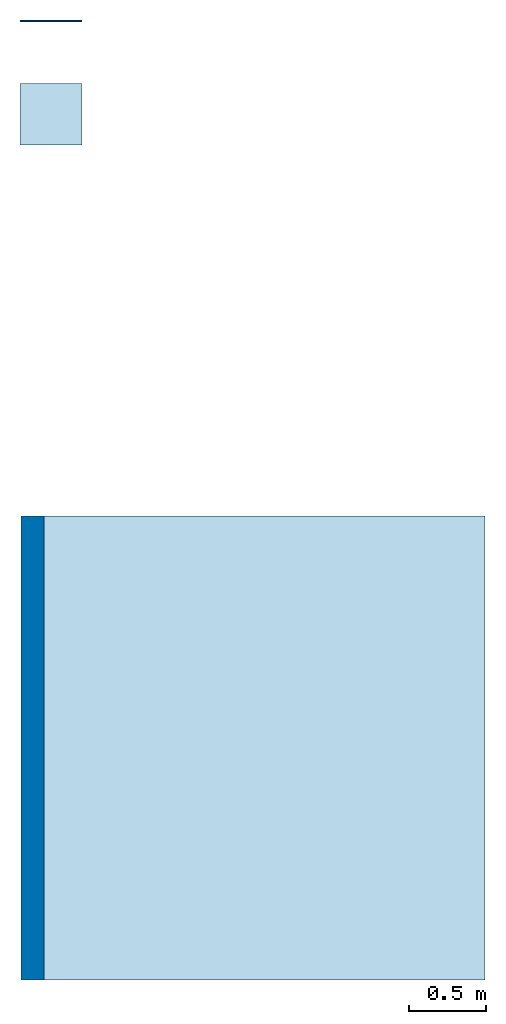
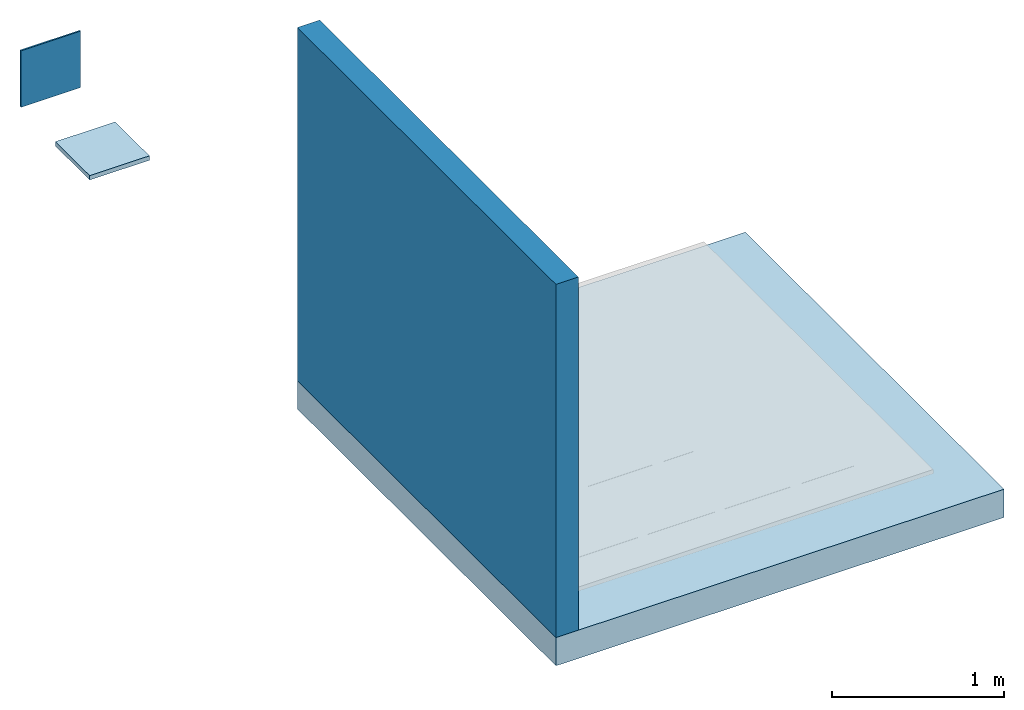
# One storey, part 1 of 2: 2 slabs, 2 walls.
"""IFC2X3 building model written with IfcOpenShell, lengths in metres."""

from ifc_helpers import new_model, entity, si_unit, converted_unit, derived_unit, direction, frame, frame_2d, origin, origin_2d_with_axis, place, context, subcontext, project, spatial, rectangle, extrude, material, layer, layer_set, layer_usage, type_object, element, save


model = new_model("IFC2X3")

# Units and contexts
model_context = context("Model", 3, precision=1e-05, world=origin(), true_north=direction((6.123031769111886e-17, 1.0)))
body_context = subcontext(model_context, "Body", "Model", "MODEL_VIEW")
ifc_project = project(units=[si_unit("LENGTHUNIT", "METRE"), si_unit("AREAUNIT", "SQUARE_METRE"), si_unit("VOLUMEUNIT", "CUBIC_METRE"), converted_unit("PLANEANGLEUNIT", "DEGREE", entity("IfcRatioMeasure", 0.017453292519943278), si_unit("PLANEANGLEUNIT", "RADIAN"), dimensions=[0, 0, 0, 0, 0, 0, 0]), si_unit("MASSUNIT", "GRAM", prefix="KILO"), derived_unit("MASSDENSITYUNIT", [(si_unit("MASSUNIT", "GRAM", prefix="KILO"), 1), (si_unit("LENGTHUNIT", "METRE"), -3)]), derived_unit("IONCONCENTRATIONUNIT", [(si_unit("MASSUNIT", "GRAM", prefix="KILO"), 1), (si_unit("LENGTHUNIT", "METRE"), -3)]), derived_unit("MOMENTOFINERTIAUNIT", [(si_unit("LENGTHUNIT", "METRE"), 4)]), si_unit("TIMEUNIT", "SECOND"), si_unit("FREQUENCYUNIT", "HERTZ"), si_unit("THERMODYNAMICTEMPERATUREUNIT", "DEGREE_CELSIUS"), derived_unit("THERMALTRANSMITTANCEUNIT", [(si_unit("MASSUNIT", "GRAM", prefix="KILO"), 1), (si_unit("THERMODYNAMICTEMPERATUREUNIT", "KELVIN"), -1), (si_unit("TIMEUNIT", "SECOND"), -3)]), derived_unit("THERMALCONDUCTANCEUNIT", [(si_unit("MASSUNIT", "GRAM", prefix="KILO"), 1), (si_unit("THERMODYNAMICTEMPERATUREUNIT", "KELVIN"), -1), (si_unit("TIMEUNIT", "SECOND"), -3), (si_unit("LENGTHUNIT", "METRE"), 1)]), derived_unit("VOLUMETRICFLOWRATEUNIT", [(si_unit("LENGTHUNIT", "METRE"), 3), (si_unit("TIMEUNIT", "SECOND"), -1)]), derived_unit("MASSFLOWRATEUNIT", [(si_unit("MASSUNIT", "GRAM", prefix="KILO"), 1), (si_unit("TIMEUNIT", "SECOND"), -1)]), derived_unit("ROTATIONALFREQUENCYUNIT", [(si_unit("TIMEUNIT", "SECOND"), -1)]), si_unit("ELECTRICCURRENTUNIT", "AMPERE"), si_unit("ELECTRICVOLTAGEUNIT", "VOLT"), si_unit("POWERUNIT", "WATT"), si_unit("FORCEUNIT", "NEWTON", prefix="KILO"), si_unit("ILLUMINANCEUNIT", "LUX"), si_unit("LUMINOUSFLUXUNIT", "LUMEN"), si_unit("LUMINOUSINTENSITYUNIT", "CANDELA"), derived_unit("USERDEFINED", [(si_unit("MASSUNIT", "GRAM", prefix="KILO"), -1), (si_unit("LENGTHUNIT", "METRE"), -2), (si_unit("TIMEUNIT", "SECOND"), 3), (si_unit("LUMINOUSFLUXUNIT", "LUMEN"), 1)]), derived_unit("USERDEFINED", [(si_unit("MASSUNIT", "GRAM", prefix="KILO"), 1), (si_unit("TIMEUNIT", "SECOND"), -3), (si_unit("LENGTHUNIT", "METRE"), 3), (si_unit("ELECTRICCURRENTUNIT", "AMPERE"), -2)]), derived_unit("SOUNDPOWERUNIT", [(si_unit("MASSUNIT", "GRAM", prefix="KILO"), 1), (si_unit("TIMEUNIT", "SECOND"), -3), (si_unit("LENGTHUNIT", "METRE"), 2)]), derived_unit("SOUNDPRESSUREUNIT", [(si_unit("MASSUNIT", "GRAM", prefix="KILO"), 1), (si_unit("LENGTHUNIT", "METRE"), -1), (si_unit("TIMEUNIT", "SECOND"), -2)]), derived_unit("LINEARVELOCITYUNIT", [(si_unit("LENGTHUNIT", "METRE"), 1), (si_unit("TIMEUNIT", "SECOND"), -1)]), si_unit("PRESSUREUNIT", "PASCAL"), derived_unit("USERDEFINED", [(si_unit("MASSUNIT", "GRAM", prefix="KILO"), 1), (si_unit("LENGTHUNIT", "METRE"), -2), (si_unit("TIMEUNIT", "SECOND"), -2)]), derived_unit("LINEARFORCEUNIT", [(si_unit("MASSUNIT", "GRAM", prefix="KILO"), 1), (si_unit("TIMEUNIT", "SECOND"), -2)]), derived_unit("PLANARFORCEUNIT", [(si_unit("MASSUNIT", "GRAM", prefix="KILO"), 1), (si_unit("LENGTHUNIT", "METRE"), -1), (si_unit("TIMEUNIT", "SECOND"), -2)]), derived_unit("SPECIFICHEATCAPACITYUNIT", [(si_unit("THERMODYNAMICTEMPERATUREUNIT", "KELVIN"), -1), (si_unit("LENGTHUNIT", "METRE"), 2), (si_unit("TIMEUNIT", "SECOND"), -2)]), derived_unit("HEATINGVALUEUNIT", [(si_unit("LENGTHUNIT", "METRE"), 2), (si_unit("TIMEUNIT", "SECOND"), -2)]), derived_unit("VAPORPERMEABILITYUNIT", [(si_unit("LENGTHUNIT", "METRE"), -1), (si_unit("TIMEUNIT", "SECOND"), 1)]), derived_unit("DYNAMICVISCOSITYUNIT", [(si_unit("MASSUNIT", "GRAM", prefix="KILO"), 1), (si_unit("TIMEUNIT", "SECOND"), -1), (si_unit("LENGTHUNIT", "METRE"), -1)]), derived_unit("THERMALEXPANSIONCOEFFICIENTUNIT", [(si_unit("THERMODYNAMICTEMPERATUREUNIT", "KELVIN"), -1)]), derived_unit("MODULUSOFELASTICITYUNIT", [(si_unit("MASSUNIT", "GRAM", prefix="KILO"), 1), (si_unit("LENGTHUNIT", "METRE"), -1), (si_unit("TIMEUNIT", "SECOND"), -2)]), derived_unit("ISOTHERMALMOISTURECAPACITYUNIT", [(si_unit("LENGTHUNIT", "METRE"), 3), (si_unit("MASSUNIT", "GRAM", prefix="KILO"), -1)]), derived_unit("MOISTUREDIFFUSIVITYUNIT", [(si_unit("TIMEUNIT", "SECOND"), -1), (si_unit("LENGTHUNIT", "METRE"), 2)])], contexts=[model_context])

# Site, building, storey
site_placement = place(None, origin())
site = spatial("IfcSite", under=ifc_project, at=site_placement, Name="Default", CompositionType="ELEMENT")
building_placement = place(site_placement, origin())
building = spatial("IfcBuilding", under=site, at=building_placement, CompositionType="ELEMENT")
storey_placement = place(building_placement, frame((0.0, 0.0, -0.0025237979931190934)))
storey = spatial("IfcBuildingStorey", under=building, at=storey_placement, Name="ARQ Térreo", CompositionType="ELEMENT", Elevation=-0.0025237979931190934)

# Slabs
ifc_material_1 = material(Name="#concreto")
ifc_layer_1 = layer(ifc_material_1, 0.2)
ifc_layer_set_1 = layer_set([ifc_layer_1], Name="Piso:Piso:LAJE CONCRETO")
ifc_layer_usage_1 = layer_usage(ifc_layer_set_1, "AXIS3", "POSITIVE", 0.0)
slab_type_1 = type_object("IfcSlabType", Name="Piso:Piso:LAJE CONCRETO", PredefinedType="FLOOR", material=ifc_layer_set_1)
slab_1_placement = place(storey_placement, origin())
element("IfcSlab", 1, at=slab_1_placement, inside=storey, type_object=slab_type_1, material=ifc_layer_usage_1, Name="Piso:Piso:LAJE CONCRETO", ObjectType="Piso:Piso:LAJE CONCRETO", PredefinedType="FLOOR", context=body_context, shape_type="SweptSolid", body=[
    extrude(rectangle(XDim=3.0000000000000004, YDim=3.0000000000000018, at=origin_2d_with_axis()), frame((0.9980295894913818, -1.354129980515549, 0.0), z_axis=(0.0, 0.0, -1.0), x_axis=(0.0, 1.0, 0.0)), (0.0, 0.0, 1.0), 0.2),
])
ifc_material_2 = material(Name="#Vedalage Ultra 10")
ifc_layer_2 = layer(ifc_material_2, 0.0009999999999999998)
ifc_material_3 = material(Name="#argamassa")
ifc_layer_3 = layer(ifc_material_3, 0.03)
ifc_layer_set_2 = layer_set([ifc_layer_2, ifc_layer_3], Name="Piso:IMPH_VDGU10")
ifc_layer_usage_2 = layer_usage(ifc_layer_set_2, "AXIS3", "POSITIVE", 0.0)
slab_type_2 = type_object("IfcSlabType", Name="Piso:IMPH_VDGU10", PredefinedType="FLOOR", material=ifc_layer_set_2)
slab_2_placement = place(storey_placement, origin())
element("IfcSlab", 2, at=slab_2_placement, inside=storey, type_object=slab_type_2, material=ifc_layer_usage_2, Name="Piso:IMPH_VDGU10", ObjectType="Piso:IMPH_VDGU10", PredefinedType="FLOOR", context=body_context, shape_type="SweptSolid", body=[
    extrude(rectangle(XDim=0.396999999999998, YDim=0.4, at=frame_2d((-2.636779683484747e-16, 0.0), x_axis=(1.0, 0.0))), frame((-0.3084496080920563, 2.740434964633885, 0.0), z_axis=(0.0, 0.0, -1.0), x_axis=(0.0, 1.0, 0.0)), (0.0, 0.0, 1.0), 0.031),
])

# Walls
ifc_layer_4 = layer(ifc_material_1, 0.14999999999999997)
ifc_layer_set_3 = layer_set([ifc_layer_4], Name="Parede básica:Parede básica:Parede Concreto")
ifc_layer_usage_3 = layer_usage(ifc_layer_set_3, "AXIS2", "NEGATIVE", 0.07499999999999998)
wall_type_1 = type_object("IfcWallType", Name="Parede básica:Parede básica:Parede Concreto", PredefinedType="STANDARD", material=ifc_layer_set_3)
wall_1_placement = place(storey_placement, frame((-0.4269704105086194, 0.14587001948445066, 0.0), z_axis=(0.0, 0.0, 1.0), x_axis=(0.0, -1.0, 0.0)))
element("IfcWallStandardCase", 3, at=wall_1_placement, inside=storey, type_object=wall_type_1, material=ifc_layer_usage_3, Name="Parede básica:Parede Concreto", ObjectType="Parede básica:Parede Concreto", context=body_context, shape_type="SweptSolid", body=[
    extrude(rectangle(XDim=2.9999999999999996, YDim=0.15000000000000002, at=frame_2d((1.4999999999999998, 0.0), x_axis=(-1.0, 0.0))), origin(), (0.0, 0.0, 1.0), 2.4999999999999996),
])
ifc_layer_5 = layer(ifc_material_2, 0.0009999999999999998)
ifc_layer_6 = layer(ifc_material_3, 0.01)
ifc_layer_set_4 = layer_set([ifc_layer_5, ifc_layer_6], Name="Parede básica:IMPV_VDGU10")
ifc_layer_usage_4 = layer_usage(ifc_layer_set_4, "AXIS2", "NEGATIVE", 0.0055000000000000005)
wall_type_2 = type_object("IfcWallType", Name="Parede básica:IMPV_VDGU10", PredefinedType="STANDARD", material=ifc_layer_set_4)
wall_2_placement = place(storey_placement, frame((-0.10844960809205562, 3.3444349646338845, 0.0), z_axis=(0.0, 0.0, 1.0), x_axis=(-1.0, 0.0, 0.0)))
element("IfcWallStandardCase", 4, at=wall_2_placement, inside=storey, type_object=wall_type_2, material=ifc_layer_usage_4, Name="Parede básica:IMPV_T4PP", ObjectType="Parede básica:IMPV_T4PP", context=body_context, shape_type="SweptSolid", body=[
    extrude(rectangle(XDim=0.4, YDim=0.010999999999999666, at=frame_2d((0.2, 6.201636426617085e-17), x_axis=(-1.0, 0.0))), origin(), (0.0, 0.0, 1.0), 0.4),
])

save(model, "model.ifc")
